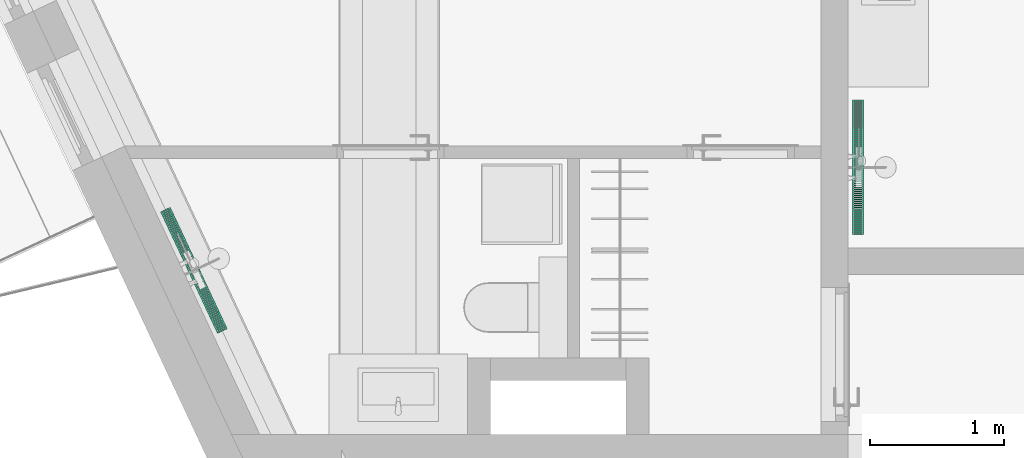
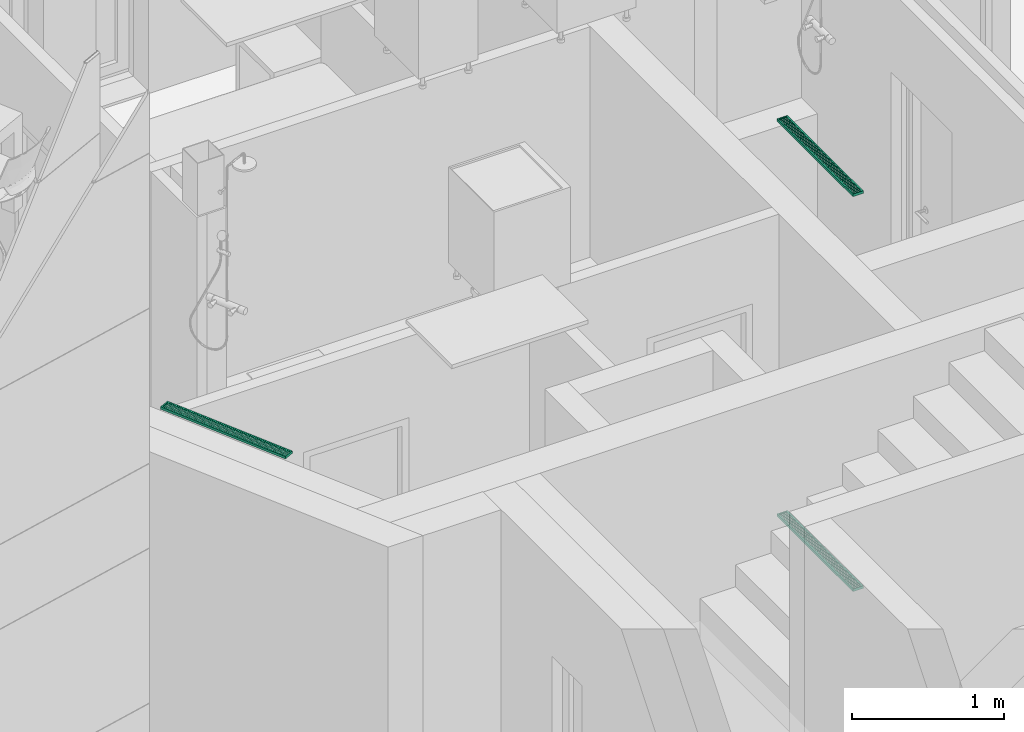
# One storey, part 50 of 125: 3 flow terminals.
"""IFC2X3 building model written with IfcOpenShell, lengths in millimetres."""

from ifc_helpers import new_model, entity, si_unit, converted_unit, direction, frame, origin, place, context, subcontext, project, spatial, faceted_brep, source, transform, mapped, material, type_object, type_shapes, element, save


model = new_model("IFC2X3")

# Units and contexts
model_context = context("Model", 3, precision=0.01, world=origin(), true_north=direction((6.123233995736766e-17, 1.0)))
plan_context = context("Plan", 3, precision=0.01, world=origin(), true_north=direction((6.123233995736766e-17, 1.0)))
body_context = subcontext(model_context, "Body", "Model", "MODEL_VIEW")
ifc_project = project(units=[si_unit("LENGTHUNIT", "METRE", prefix="MILLI"), converted_unit("PLANEANGLEUNIT", "DEGREE", entity("IfcPlaneAngleMeasure", 0.017453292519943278), si_unit("PLANEANGLEUNIT", "RADIAN"), dimensions=[0, 0, 0, 0, 0, 0, 0]), si_unit("AREAUNIT", "SQUARE_METRE")], contexts=[model_context, plan_context])

# Site, building, storey, space
site_placement = place(None, origin())
site = spatial("IfcSite", under=ifc_project, at=site_placement, Name="Default", CompositionType="ELEMENT")
building_placement = place(site_placement, origin())
building = spatial("IfcBuilding", under=site, at=building_placement, CompositionType="ELEMENT")
storey_placement = place(building_placement, frame((0.0, 0.0, 3125.0)))
storey = spatial("IfcBuildingStorey", under=building, at=storey_placement, Name="2K", CompositionType="ELEMENT", Elevation=3125.0)
space_1_placement = place(storey_placement, origin())
space_1 = spatial("IfcSpace", under=storey, at=space_1_placement, Name="2-2.4", CompositionType="ELEMENT", InteriorOrExteriorSpace="INTERNAL")

# Flow terminals
ifc_material = material(Name="<Unnamed>")
distribution_element_type = type_object("IfcDistributionElementType", Name="HR_Plumbing-fixtures_Drain_Channel_Generic_v1:Default", material=ifc_material)
shared_shape = source(origin(), body_context, "Body", "Brep", [
    faceted_brep([(500.0, 80.0, 0.0), (-500.0, 80.0, 0.0), (-500.0, 0.0, 0.0), (500.0, 0.0, 0.0), (20.0, 70.0, 0.0), (25.0, 70.0, 0.0), (25.0, 10.0, 0.0), (20.0, 10.0, 0.0), (35.0, 70.0, 0.0), (40.0, 70.0, 0.0), (40.0, 10.0, 0.0), (35.0, 10.0, 0.0), (50.0, 70.0, 0.0), (55.0, 70.0, 0.0), (55.0, 10.0, 0.0), (50.0, 10.0, 0.0), (65.0, 70.0, 0.0), (70.0, 70.0, 0.0), (70.0, 10.0, 0.0), (65.0, 10.0, 0.0), (80.0, 70.0, 0.0), (85.0, 70.0, 0.0), (85.0, 10.0, 0.0), (80.0, 10.0, 0.0), (95.0, 70.0, 0.0), (100.0, 70.0, 0.0), (100.0, 10.0, 0.0), (95.0, 10.0, 0.0), (110.0, 70.0, 0.0), (115.0, 70.0, 0.0), (115.0, 10.0, 0.0), (110.0, 10.0, 0.0), (125.0, 70.0, 0.0), (130.0, 70.0, 0.0), (130.0, 10.0, 0.0), (125.0, 10.0, 0.0), (140.0, 70.0, 0.0), (145.0, 70.0, 0.0), (145.0, 10.0, 0.0), (140.0, 10.0, 0.0), (155.0, 70.0, 0.0), (160.0, 70.0, 0.0), (160.0, 10.0, 0.0), (155.0, 10.0, 0.0), (170.0, 70.0, 0.0), (175.0, 70.0, 0.0), (175.0, 10.0, 0.0), (170.0, 10.0, 0.0), (185.0, 70.0, 0.0), (190.0, 70.0, 0.0), (190.0, 10.0, 0.0), (185.0, 10.0, 0.0), (200.0, 70.0, 0.0), (205.0, 70.0, 0.0), (205.0, 10.0, 0.0), (200.0, 10.0, 0.0), (215.0, 70.0, 0.0), (220.0, 70.0, 0.0), (220.0, 10.0, 0.0), (215.0, 10.0, 0.0), (230.0, 70.0, 0.0), (235.0, 70.0, 0.0), (235.0, 10.0, 0.0), (230.0, 10.0, 0.0), (245.0, 70.0, 0.0), (250.0, 70.0, 0.0), (250.0, 10.0, 0.0), (245.0, 10.0, 0.0), (260.0, 70.0, 0.0), (265.0, 70.0, 0.0), (265.0, 10.0, 0.0), (260.0, 10.0, 0.0), (275.0, 70.0, 0.0), (280.0, 70.0, 0.0), (280.0, 10.0, 0.0), (275.0, 10.0, 0.0), (290.0, 70.0, 0.0), (295.0, 70.0, 0.0), (295.0, 10.0, 0.0), (290.0, 10.0, 0.0), (305.0, 70.0, 0.0), (310.0, 70.0, 0.0), (310.0, 10.0, 0.0), (305.0, 10.0, 0.0), (320.0, 70.0, 0.0), (325.0, 70.0, 0.0), (325.0, 10.0, 0.0), (320.0, 10.0, 0.0), (335.0, 70.0, 0.0), (340.0, 70.0, 0.0), (340.0, 10.0, 0.0), (335.0, 10.0, 0.0), (350.0, 70.0, 0.0), (355.0, 70.0, 0.0), (355.0, 10.0, 0.0), (350.0, 10.0, 0.0), (365.0, 70.0, 0.0), (370.0, 70.0, 0.0), (370.0, 10.0, 0.0), (365.0, 10.0, 0.0), (380.0, 70.0, 0.0), (385.0, 70.0, 0.0), (385.0, 10.0, 0.0), (380.0, 10.0, 0.0), (-25.0, 70.0, 0.0), (-20.0, 70.0, 0.0), (-20.0, 10.0, 0.0), (-25.0, 10.0, 0.0), (-40.0, 70.0, 0.0), (-35.0, 70.0, 0.0), (-35.0, 10.0, 0.0), (-40.0, 10.0, 0.0), (-55.0, 70.0, 0.0), (-50.0, 70.0, 0.0), (-50.0, 10.0, 0.0), (-55.0, 10.0, 0.0), (-70.0, 70.0, 0.0), (-65.0, 70.0, 0.0), (-65.0, 10.0, 0.0), (-70.0, 10.0, 0.0), (-85.0, 70.0, 0.0), (-80.0, 70.0, 0.0), (-80.0, 10.0, 0.0), (-85.0, 10.0, 0.0), (-100.0, 70.0, 0.0), (-95.0, 70.0, 0.0), (-95.0, 10.0, 0.0), (-100.0, 10.0, 0.0), (-115.0, 70.0, 0.0), (-110.0, 70.0, 0.0), (-110.0, 10.0, 0.0), (-115.0, 10.0, 0.0), (-130.0, 70.0, 0.0), (-125.0, 70.0, 0.0), (-125.0, 10.0, 0.0), (-130.0, 10.0, 0.0), (-145.0, 70.0, 0.0), (-140.0, 70.0, 0.0), (-140.0, 10.0, 0.0), (-145.0, 10.0, 0.0), (-160.0, 70.0, 0.0), (-155.0, 70.0, 0.0), (-155.0, 10.0, 0.0), (-160.0, 10.0, 0.0), (-175.0, 70.0, 0.0), (-170.0, 70.0, 0.0), (-170.0, 10.0, 0.0), (-175.0, 10.0, 0.0), (-190.0, 70.0, 0.0), (-185.0, 70.0, 0.0), (-185.0, 10.0, 0.0), (-190.0, 10.0, 0.0), (-205.0, 70.0, 0.0), (-200.0, 70.0, 0.0), (-200.0, 10.0, 0.0), (-205.0, 10.0, 0.0), (-220.0, 70.0, 0.0), (-215.0, 70.0, 0.0), (-215.0, 10.0, 0.0), (-220.0, 10.0, 0.0), (-235.0, 70.0, 0.0), (-230.0, 70.0, 0.0), (-230.0, 10.0, 0.0), (-235.0, 10.0, 0.0), (-250.0, 70.0, 0.0), (-245.0, 70.0, 0.0), (-245.0, 10.0, 0.0), (-250.0, 10.0, 0.0), (-265.0, 70.0, 0.0), (-260.0, 70.0, 0.0), (-260.0, 10.0, 0.0), (-265.0, 10.0, 0.0), (-280.0, 70.0, 0.0), (-275.0, 70.0, 0.0), (-275.0, 10.0, 0.0), (-280.0, 10.0, 0.0), (-295.0, 70.0, 0.0), (-290.0, 70.0, 0.0), (-290.0, 10.0, 0.0), (-295.0, 10.0, 0.0), (-310.0, 70.0, 0.0), (-305.0, 70.0, 0.0), (-305.0, 10.0, 0.0), (-310.0, 10.0, 0.0), (-325.0, 70.0, 0.0), (-320.0, 70.0, 0.0), (-320.0, 10.0, 0.0), (-325.0, 10.0, 0.0), (-340.0, 70.0, 0.0), (-335.0, 70.0, 0.0), (-335.0, 10.0, 0.0), (-340.0, 10.0, 0.0), (-355.0, 70.0, 0.0), (-350.0, 70.0, 0.0), (-350.0, 10.0, 0.0), (-355.0, 10.0, 0.0), (-370.0, 70.0, 0.0), (-365.0, 70.0, 0.0), (-365.0, 10.0, 0.0), (-370.0, 10.0, 0.0), (-385.0, 70.0, 0.0), (-380.0, 70.0, 0.0), (-380.0, 10.0, 0.0), (-385.0, 10.0, 0.0), (395.0, 70.0, 0.0), (400.0, 70.0, 0.0), (400.0, 10.0, 0.0), (395.0, 10.0, 0.0), (410.0, 70.0, 0.0), (415.0, 70.0, 0.0), (415.0, 10.0, 0.0), (410.0, 10.0, 0.0), (425.0, 70.0, 0.0), (430.0, 70.0, 0.0), (430.0, 10.0, 0.0), (425.0, 10.0, 0.0), (440.0, 70.0, 0.0), (445.0, 70.0, 0.0), (445.0, 10.0, 0.0), (440.0, 10.0, 0.0), (455.0, 70.0, 0.0), (460.0, 70.0, 0.0), (460.0, 10.0, 0.0), (455.0, 10.0, 0.0), (470.0, 70.0, 0.0), (475.0, 70.0, 0.0), (475.0, 10.0, 0.0), (470.0, 10.0, 0.0), (485.0, 70.0, 0.0), (490.0, 70.0, 0.0), (490.0, 10.0, 0.0), (485.0, 10.0, 0.0), (-400.0, 70.0, 0.0), (-395.0, 70.0, 0.0), (-395.0, 10.0, 0.0), (-400.0, 10.0, 0.0), (-415.0, 70.0, 0.0), (-410.0, 70.0, 0.0), (-410.0, 10.0, 0.0), (-415.0, 10.0, 0.0), (-430.0, 70.0, 0.0), (-425.0, 70.0, 0.0), (-425.0, 10.0, 0.0), (-430.0, 10.0, 0.0), (-445.0, 70.0, 0.0), (-440.0, 70.0, 0.0), (-440.0, 10.0, 0.0), (-445.0, 10.0, 0.0), (-460.0, 70.0, 0.0), (-455.0, 70.0, 0.0), (-455.0, 10.0, 0.0), (-460.0, 10.0, 0.0), (-475.0, 70.0, 0.0), (-470.0, 70.0, 0.0), (-470.0, 10.0, 0.0), (-475.0, 10.0, 0.0), (-490.0, 70.0, 0.0), (-485.0, 70.0, 0.0), (-485.0, 10.0, 0.0), (-490.0, 10.0, 0.0), (-10.0, 70.0, 0.0), (-5.0, 70.0, 0.0), (-5.0, 10.0, 0.0), (-10.0, 10.0, 0.0), (5.0, 70.0, 0.0), (10.0, 70.0, 0.0), (10.0, 10.0, 0.0), (5.0, 10.0, 0.0), (-500.0, 80.0, -20.0), (500.0, 80.0, -20.0), (500.0, 0.0, -20.0), (-500.0, 0.0, -20.0), (498.5000000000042, 78.500000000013, -20.0), (-498.49999999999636, 78.500000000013, -20.0), (-498.49999999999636, 1.5000000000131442, -20.0), (498.5000000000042, 1.5000000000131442, -20.0), (498.5000000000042, 78.500000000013, -1.5000000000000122), (498.5000000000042, 1.5000000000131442, -1.5000000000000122), (-498.49999999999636, 1.5000000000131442, -1.5000000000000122), (-498.49999999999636, 78.500000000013, -1.5000000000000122), (25.0, 70.0, -1.5000000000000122), (20.0, 70.0, -1.5000000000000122), (20.0, 10.0, -1.5000000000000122), (25.0, 10.0, -1.5000000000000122), (40.0, 70.0, -1.5000000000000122), (35.0, 70.0, -1.5000000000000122), (35.0, 10.0, -1.5000000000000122), (40.0, 10.0, -1.5000000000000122), (55.0, 70.0, -1.5000000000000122), (50.0, 70.0, -1.5000000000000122), (50.0, 10.0, -1.5000000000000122), (55.0, 10.0, -1.5000000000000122), (70.0, 70.0, -1.5000000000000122), (65.0, 70.0, -1.5000000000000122), (65.0, 10.0, -1.5000000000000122), (70.0, 10.0, -1.5000000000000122), (85.0, 70.0, -1.5000000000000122), (80.0, 70.0, -1.5000000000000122), (80.0, 10.0, -1.5000000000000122), (85.0, 10.0, -1.5000000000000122), (100.0, 70.0, -1.5000000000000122), (95.0, 70.0, -1.5000000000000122), (95.0, 10.0, -1.5000000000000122), (100.0, 10.0, -1.5000000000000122), (115.0, 70.0, -1.5000000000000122), (110.0, 70.0, -1.5000000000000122), (110.0, 10.0, -1.5000000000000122), (115.0, 10.0, -1.5000000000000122), (130.0, 70.0, -1.5000000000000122), (125.0, 70.0, -1.5000000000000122), (125.0, 10.0, -1.5000000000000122), (130.0, 10.0, -1.5000000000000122), (145.0, 70.0, -1.5000000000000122), (140.0, 70.0, -1.5000000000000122), (140.0, 10.0, -1.5000000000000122), (145.0, 10.0, -1.5000000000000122), (160.0, 70.0, -1.5000000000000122), (155.0, 70.0, -1.5000000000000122), (155.0, 10.0, -1.5000000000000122), (160.0, 10.0, -1.5000000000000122), (175.0, 70.0, -1.5000000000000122), (170.0, 70.0, -1.5000000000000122), (170.0, 10.0, -1.5000000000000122), (175.0, 10.0, -1.5000000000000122), (190.0, 70.0, -1.5000000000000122), (185.0, 70.0, -1.5000000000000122), (185.0, 10.0, -1.5000000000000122), (190.0, 10.0, -1.5000000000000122), (205.0, 70.0, -1.5000000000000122), (200.0, 70.0, -1.5000000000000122), (200.0, 10.0, -1.5000000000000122), (205.0, 10.0, -1.5000000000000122), (220.0, 70.0, -1.5000000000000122), (215.0, 70.0, -1.5000000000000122), (215.0, 10.0, -1.5000000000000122), (220.0, 10.0, -1.5000000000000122), (235.0, 70.0, -1.5000000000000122), (230.0, 70.0, -1.5000000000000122), (230.0, 10.0, -1.5000000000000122), (235.0, 10.0, -1.5000000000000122), (250.0, 70.0, -1.5000000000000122), (245.0, 70.0, -1.5000000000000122), (245.0, 10.0, -1.5000000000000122), (250.0, 10.0, -1.5000000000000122), (265.0, 70.0, -1.5000000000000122), (260.0, 70.0, -1.5000000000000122), (260.0, 10.0, -1.5000000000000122), (265.0, 10.0, -1.5000000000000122), (280.0, 70.0, -1.5000000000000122), (275.0, 70.0, -1.5000000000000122), (275.0, 10.0, -1.5000000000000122), (280.0, 10.0, -1.5000000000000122), (295.0, 70.0, -1.5000000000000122), (290.0, 70.0, -1.5000000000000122), (290.0, 10.0, -1.5000000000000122), (295.0, 10.0, -1.5000000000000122), (310.0, 70.0, -1.5000000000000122), (305.0, 70.0, -1.5000000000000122), (305.0, 10.0, -1.5000000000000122), (310.0, 10.0, -1.5000000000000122), (325.0, 70.0, -1.5000000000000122), (320.0, 70.0, -1.5000000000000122), (320.0, 10.0, -1.5000000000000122), (325.0, 10.0, -1.5000000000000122), (340.0, 70.0, -1.5000000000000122), (335.0, 70.0, -1.5000000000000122), (335.0, 10.0, -1.5000000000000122), (340.0, 10.0, -1.5000000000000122), (355.0, 70.0, -1.5000000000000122), (350.0, 70.0, -1.5000000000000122), (350.0, 10.0, -1.5000000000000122), (355.0, 10.0, -1.5000000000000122), (370.0, 70.0, -1.5000000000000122), (365.0, 70.0, -1.5000000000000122), (365.0, 10.0, -1.5000000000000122), (370.0, 10.0, -1.5000000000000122), (385.0, 70.0, -1.5000000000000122), (380.0, 70.0, -1.5000000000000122), (380.0, 10.0, -1.5000000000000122), (385.0, 10.0, -1.5000000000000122), (-20.0, 70.0, -1.5000000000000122), (-25.0, 70.0, -1.5000000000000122), (-25.0, 10.0, -1.5000000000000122), (-20.0, 10.0, -1.5000000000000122), (-35.0, 70.0, -1.5000000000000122), (-40.0, 70.0, -1.5000000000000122), (-40.0, 10.0, -1.5000000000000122), (-35.0, 10.0, -1.5000000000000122), (-50.0, 70.0, -1.5000000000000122), (-55.0, 70.0, -1.5000000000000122), (-55.0, 10.0, -1.5000000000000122), (-50.0, 10.0, -1.5000000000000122), (-65.0, 70.0, -1.5000000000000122), (-70.0, 70.0, -1.5000000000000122), (-70.0, 10.0, -1.5000000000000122), (-65.0, 10.0, -1.5000000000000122), (-80.0, 70.0, -1.5000000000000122), (-85.0, 70.0, -1.5000000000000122), (-85.0, 10.0, -1.5000000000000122), (-80.0, 10.0, -1.5000000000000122), (-95.0, 70.0, -1.5000000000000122), (-100.0, 70.0, -1.5000000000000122), (-100.0, 10.0, -1.5000000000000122), (-95.0, 10.0, -1.5000000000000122), (-110.0, 70.0, -1.5000000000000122), (-115.0, 70.0, -1.5000000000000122), (-115.0, 10.0, -1.5000000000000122), (-110.0, 10.0, -1.5000000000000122), (-125.0, 70.0, -1.5000000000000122), (-130.0, 70.0, -1.5000000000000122), (-130.0, 10.0, -1.5000000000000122), (-125.0, 10.0, -1.5000000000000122), (-140.0, 70.0, -1.5000000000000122), (-145.0, 70.0, -1.5000000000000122), (-145.0, 10.0, -1.5000000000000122), (-140.0, 10.0, -1.5000000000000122), (-155.0, 70.0, -1.5000000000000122), (-160.0, 70.0, -1.5000000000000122), (-160.0, 10.0, -1.5000000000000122), (-155.0, 10.0, -1.5000000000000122), (-170.0, 70.0, -1.5000000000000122), (-175.0, 70.0, -1.5000000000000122), (-175.0, 10.0, -1.5000000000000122), (-170.0, 10.0, -1.5000000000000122), (-185.0, 70.0, -1.5000000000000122), (-190.0, 70.0, -1.5000000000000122), (-190.0, 10.0, -1.5000000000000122), (-185.0, 10.0, -1.5000000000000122), (-200.0, 70.0, -1.5000000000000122), (-205.0, 70.0, -1.5000000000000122), (-205.0, 10.0, -1.5000000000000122), (-200.0, 10.0, -1.5000000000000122), (-215.0, 70.0, -1.5000000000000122), (-220.0, 70.0, -1.5000000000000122), (-220.0, 10.0, -1.5000000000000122), (-215.0, 10.0, -1.5000000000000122), (-230.0, 70.0, -1.5000000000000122), (-235.0, 70.0, -1.5000000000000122), (-235.0, 10.0, -1.5000000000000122), (-230.0, 10.0, -1.5000000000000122), (-245.0, 70.0, -1.5000000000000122), (-250.0, 70.0, -1.5000000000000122), (-250.0, 10.0, -1.5000000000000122), (-245.0, 10.0, -1.5000000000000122), (-260.0, 70.0, -1.5000000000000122), (-265.0, 70.0, -1.5000000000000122), (-265.0, 10.0, -1.5000000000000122), (-260.0, 10.0, -1.5000000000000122), (-275.0, 70.0, -1.5000000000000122), (-280.0, 70.0, -1.5000000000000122), (-280.0, 10.0, -1.5000000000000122), (-275.0, 10.0, -1.5000000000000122), (-290.0, 70.0, -1.5000000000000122), (-295.0, 70.0, -1.5000000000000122), (-295.0, 10.0, -1.5000000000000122), (-290.0, 10.0, -1.5000000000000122), (-305.0, 70.0, -1.5000000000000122), (-310.0, 70.0, -1.5000000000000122), (-310.0, 10.0, -1.5000000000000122), (-305.0, 10.0, -1.5000000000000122), (-320.0, 70.0, -1.5000000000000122), (-325.0, 70.0, -1.5000000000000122), (-325.0, 10.0, -1.5000000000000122), (-320.0, 10.0, -1.5000000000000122), (-335.0, 70.0, -1.5000000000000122), (-340.0, 70.0, -1.5000000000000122), (-340.0, 10.0, -1.5000000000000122), (-335.0, 10.0, -1.5000000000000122), (-350.0, 70.0, -1.5000000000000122), (-355.0, 70.0, -1.5000000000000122), (-355.0, 10.0, -1.5000000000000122), (-350.0, 10.0, -1.5000000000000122), (-365.0, 70.0, -1.5000000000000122), (-370.0, 70.0, -1.5000000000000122), (-370.0, 10.0, -1.5000000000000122), (-365.0, 10.0, -1.5000000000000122), (-380.0, 70.0, -1.5000000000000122), (-385.0, 70.0, -1.5000000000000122), (-385.0, 10.0, -1.5000000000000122), (-380.0, 10.0, -1.5000000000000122), (400.0, 70.0, -1.5000000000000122), (395.0, 70.0, -1.5000000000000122), (395.0, 10.0, -1.5000000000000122), (400.0, 10.0, -1.5000000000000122), (415.0, 70.0, -1.5000000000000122), (410.0, 70.0, -1.5000000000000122), (410.0, 10.0, -1.5000000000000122), (415.0, 10.0, -1.5000000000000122), (430.0, 70.0, -1.5000000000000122), (425.0, 70.0, -1.5000000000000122), (425.0, 10.0, -1.5000000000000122), (430.0, 10.0, -1.5000000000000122), (445.0, 70.0, -1.5000000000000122), (440.0, 70.0, -1.5000000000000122), (440.0, 10.0, -1.5000000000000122), (445.0, 10.0, -1.5000000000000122), (460.0, 70.0, -1.5000000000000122), (455.0, 70.0, -1.5000000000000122), (455.0, 10.0, -1.5000000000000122), (460.0, 10.0, -1.5000000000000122), (475.0, 70.0, -1.5000000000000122), (470.0, 70.0, -1.5000000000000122), (470.0, 10.0, -1.5000000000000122), (475.0, 10.0, -1.5000000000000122), (490.0, 70.0, -1.5000000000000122), (485.0, 70.0, -1.5000000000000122), (485.0, 10.0, -1.5000000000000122), (490.0, 10.0, -1.5000000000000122), (-395.0, 70.0, -1.5000000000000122), (-400.0, 70.0, -1.5000000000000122), (-400.0, 10.0, -1.5000000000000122), (-395.0, 10.0, -1.5000000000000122), (-410.0, 70.0, -1.5000000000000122), (-415.0, 70.0, -1.5000000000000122), (-415.0, 10.0, -1.5000000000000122), (-410.0, 10.0, -1.5000000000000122), (-425.0, 70.0, -1.5000000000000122), (-430.0, 70.0, -1.5000000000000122), (-430.0, 10.0, -1.5000000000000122), (-425.0, 10.0, -1.5000000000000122), (-440.0, 70.0, -1.5000000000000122), (-445.0, 70.0, -1.5000000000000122), (-445.0, 10.0, -1.5000000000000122), (-440.0, 10.0, -1.5000000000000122), (-455.0, 70.0, -1.5000000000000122), (-460.0, 70.0, -1.5000000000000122), (-460.0, 10.0, -1.5000000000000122), (-455.0, 10.0, -1.5000000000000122), (-470.0, 70.0, -1.5000000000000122), (-475.0, 70.0, -1.5000000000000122), (-475.0, 10.0, -1.5000000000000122), (-470.0, 10.0, -1.5000000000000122), (-485.0, 70.0, -1.5000000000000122), (-490.0, 70.0, -1.5000000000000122), (-490.0, 10.0, -1.5000000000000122), (-485.0, 10.0, -1.5000000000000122), (-5.0, 70.0, -1.5000000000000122), (-10.0, 70.0, -1.5000000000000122), (-10.0, 10.0, -1.5000000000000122), (-5.0, 10.0, -1.5000000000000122), (10.0, 70.0, -1.5000000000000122), (5.0, 70.0, -1.5000000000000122), (5.0, 10.0, -1.5000000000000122), (10.0, 10.0, -1.5000000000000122)], [[[0, 1, 2, 3], [4, 5, 6, 7], [8, 9, 10, 11], [12, 13, 14, 15], [16, 17, 18, 19], [20, 21, 22, 23], [24, 25, 26, 27], [28, 29, 30, 31], [32, 33, 34, 35], [36, 37, 38, 39], [40, 41, 42, 43], [44, 45, 46, 47], [48, 49, 50, 51], [52, 53, 54, 55], [56, 57, 58, 59], [60, 61, 62, 63], [64, 65, 66, 67], [68, 69, 70, 71], [72, 73, 74, 75], [76, 77, 78, 79], [80, 81, 82, 83], [84, 85, 86, 87], [88, 89, 90, 91], [92, 93, 94, 95], [96, 97, 98, 99], [100, 101, 102, 103], [104, 105, 106, 107], [108, 109, 110, 111], [112, 113, 114, 115], [116, 117, 118, 119], [120, 121, 122, 123], [124, 125, 126, 127], [128, 129, 130, 131], [132, 133, 134, 135], [136, 137, 138, 139], [140, 141, 142, 143], [144, 145, 146, 147], [148, 149, 150, 151], [152, 153, 154, 155], [156, 157, 158, 159], [160, 161, 162, 163], [164, 165, 166, 167], [168, 169, 170, 171], [172, 173, 174, 175], [176, 177, 178, 179], [180, 181, 182, 183], [184, 185, 186, 187], [188, 189, 190, 191], [192, 193, 194, 195], [196, 197, 198, 199], [200, 201, 202, 203], [204, 205, 206, 207], [208, 209, 210, 211], [212, 213, 214, 215], [216, 217, 218, 219], [220, 221, 222, 223], [224, 225, 226, 227], [228, 229, 230, 231], [232, 233, 234, 235], [236, 237, 238, 239], [240, 241, 242, 243], [244, 245, 246, 247], [248, 249, 250, 251], [252, 253, 254, 255], [256, 257, 258, 259], [260, 261, 262, 263], [264, 265, 266, 267]], [[268, 269, 270, 271], [272, 273, 274, 275]], [[1, 0, 269, 268]], [[2, 1, 268, 271]], [[3, 2, 271, 270]], [[0, 3, 270, 269]], [[276, 277, 278, 279], [280, 281, 282, 283], [284, 285, 286, 287], [288, 289, 290, 291], [292, 293, 294, 295], [296, 297, 298, 299], [300, 301, 302, 303], [304, 305, 306, 307], [308, 309, 310, 311], [312, 313, 314, 315], [316, 317, 318, 319], [320, 321, 322, 323], [324, 325, 326, 327], [328, 329, 330, 331], [332, 333, 334, 335], [336, 337, 338, 339], [340, 341, 342, 343], [344, 345, 346, 347], [348, 349, 350, 351], [352, 353, 354, 355], [356, 357, 358, 359], [360, 361, 362, 363], [364, 365, 366, 367], [368, 369, 370, 371], [372, 373, 374, 375], [376, 377, 378, 379], [380, 381, 382, 383], [384, 385, 386, 387], [388, 389, 390, 391], [392, 393, 394, 395], [396, 397, 398, 399], [400, 401, 402, 403], [404, 405, 406, 407], [408, 409, 410, 411], [412, 413, 414, 415], [416, 417, 418, 419], [420, 421, 422, 423], [424, 425, 426, 427], [428, 429, 430, 431], [432, 433, 434, 435], [436, 437, 438, 439], [440, 441, 442, 443], [444, 445, 446, 447], [448, 449, 450, 451], [452, 453, 454, 455], [456, 457, 458, 459], [460, 461, 462, 463], [464, 465, 466, 467], [468, 469, 470, 471], [472, 473, 474, 475], [476, 477, 478, 479], [480, 481, 482, 483], [484, 485, 486, 487], [488, 489, 490, 491], [492, 493, 494, 495], [496, 497, 498, 499], [500, 501, 502, 503], [504, 505, 506, 507], [508, 509, 510, 511], [512, 513, 514, 515], [516, 517, 518, 519], [520, 521, 522, 523], [524, 525, 526, 527], [528, 529, 530, 531], [532, 533, 534, 535], [536, 537, 538, 539], [540, 541, 542, 543]], [[276, 279, 273, 272]], [[279, 278, 274, 273]], [[278, 277, 275, 274]], [[277, 276, 272, 275]], [[5, 4, 281, 280]], [[4, 7, 282, 281]], [[7, 6, 283, 282]], [[6, 5, 280, 283]], [[9, 8, 285, 284]], [[8, 11, 286, 285]], [[11, 10, 287, 286]], [[10, 9, 284, 287]], [[13, 12, 289, 288]], [[12, 15, 290, 289]], [[15, 14, 291, 290]], [[14, 13, 288, 291]], [[17, 16, 293, 292]], [[16, 19, 294, 293]], [[19, 18, 295, 294]], [[18, 17, 292, 295]], [[21, 20, 297, 296]], [[20, 23, 298, 297]], [[23, 22, 299, 298]], [[22, 21, 296, 299]], [[25, 24, 301, 300]], [[24, 27, 302, 301]], [[27, 26, 303, 302]], [[26, 25, 300, 303]], [[29, 28, 305, 304]], [[28, 31, 306, 305]], [[31, 30, 307, 306]], [[30, 29, 304, 307]], [[33, 32, 309, 308]], [[32, 35, 310, 309]], [[35, 34, 311, 310]], [[34, 33, 308, 311]], [[37, 36, 313, 312]], [[36, 39, 314, 313]], [[39, 38, 315, 314]], [[38, 37, 312, 315]], [[41, 40, 317, 316]], [[40, 43, 318, 317]], [[43, 42, 319, 318]], [[42, 41, 316, 319]], [[45, 44, 321, 320]], [[44, 47, 322, 321]], [[47, 46, 323, 322]], [[46, 45, 320, 323]], [[49, 48, 325, 324]], [[48, 51, 326, 325]], [[51, 50, 327, 326]], [[50, 49, 324, 327]], [[53, 52, 329, 328]], [[52, 55, 330, 329]], [[55, 54, 331, 330]], [[54, 53, 328, 331]], [[57, 56, 333, 332]], [[56, 59, 334, 333]], [[59, 58, 335, 334]], [[58, 57, 332, 335]], [[61, 60, 337, 336]], [[60, 63, 338, 337]], [[63, 62, 339, 338]], [[62, 61, 336, 339]], [[65, 64, 341, 340]], [[64, 67, 342, 341]], [[67, 66, 343, 342]], [[66, 65, 340, 343]], [[69, 68, 345, 344]], [[68, 71, 346, 345]], [[71, 70, 347, 346]], [[70, 69, 344, 347]], [[73, 72, 349, 348]], [[72, 75, 350, 349]], [[75, 74, 351, 350]], [[74, 73, 348, 351]], [[77, 76, 353, 352]], [[76, 79, 354, 353]], [[79, 78, 355, 354]], [[78, 77, 352, 355]], [[81, 80, 357, 356]], [[80, 83, 358, 357]], [[83, 82, 359, 358]], [[82, 81, 356, 359]], [[85, 84, 361, 360]], [[84, 87, 362, 361]], [[87, 86, 363, 362]], [[86, 85, 360, 363]], [[89, 88, 365, 364]], [[88, 91, 366, 365]], [[91, 90, 367, 366]], [[90, 89, 364, 367]], [[93, 92, 369, 368]], [[92, 95, 370, 369]], [[95, 94, 371, 370]], [[94, 93, 368, 371]], [[97, 96, 373, 372]], [[96, 99, 374, 373]], [[99, 98, 375, 374]], [[98, 97, 372, 375]], [[101, 100, 377, 376]], [[100, 103, 378, 377]], [[103, 102, 379, 378]], [[102, 101, 376, 379]], [[105, 104, 381, 380]], [[104, 107, 382, 381]], [[107, 106, 383, 382]], [[106, 105, 380, 383]], [[109, 108, 385, 384]], [[108, 111, 386, 385]], [[111, 110, 387, 386]], [[110, 109, 384, 387]], [[113, 112, 389, 388]], [[112, 115, 390, 389]], [[115, 114, 391, 390]], [[114, 113, 388, 391]], [[117, 116, 393, 392]], [[116, 119, 394, 393]], [[119, 118, 395, 394]], [[118, 117, 392, 395]], [[121, 120, 397, 396]], [[120, 123, 398, 397]], [[123, 122, 399, 398]], [[122, 121, 396, 399]], [[125, 124, 401, 400]], [[124, 127, 402, 401]], [[127, 126, 403, 402]], [[126, 125, 400, 403]], [[129, 128, 405, 404]], [[128, 131, 406, 405]], [[131, 130, 407, 406]], [[130, 129, 404, 407]], [[133, 132, 409, 408]], [[132, 135, 410, 409]], [[135, 134, 411, 410]], [[134, 133, 408, 411]], [[137, 136, 413, 412]], [[136, 139, 414, 413]], [[139, 138, 415, 414]], [[138, 137, 412, 415]], [[141, 140, 417, 416]], [[140, 143, 418, 417]], [[143, 142, 419, 418]], [[142, 141, 416, 419]], [[145, 144, 421, 420]], [[144, 147, 422, 421]], [[147, 146, 423, 422]], [[146, 145, 420, 423]], [[149, 148, 425, 424]], [[148, 151, 426, 425]], [[151, 150, 427, 426]], [[150, 149, 424, 427]], [[153, 152, 429, 428]], [[152, 155, 430, 429]], [[155, 154, 431, 430]], [[154, 153, 428, 431]], [[157, 156, 433, 432]], [[156, 159, 434, 433]], [[159, 158, 435, 434]], [[158, 157, 432, 435]], [[161, 160, 437, 436]], [[160, 163, 438, 437]], [[163, 162, 439, 438]], [[162, 161, 436, 439]], [[165, 164, 441, 440]], [[164, 167, 442, 441]], [[167, 166, 443, 442]], [[166, 165, 440, 443]], [[169, 168, 445, 444]], [[168, 171, 446, 445]], [[171, 170, 447, 446]], [[170, 169, 444, 447]], [[173, 172, 449, 448]], [[172, 175, 450, 449]], [[175, 174, 451, 450]], [[174, 173, 448, 451]], [[177, 176, 453, 452]], [[176, 179, 454, 453]], [[179, 178, 455, 454]], [[178, 177, 452, 455]], [[181, 180, 457, 456]], [[180, 183, 458, 457]], [[183, 182, 459, 458]], [[182, 181, 456, 459]], [[185, 184, 461, 460]], [[184, 187, 462, 461]], [[187, 186, 463, 462]], [[186, 185, 460, 463]], [[189, 188, 465, 464]], [[188, 191, 466, 465]], [[191, 190, 467, 466]], [[190, 189, 464, 467]], [[193, 192, 469, 468]], [[192, 195, 470, 469]], [[195, 194, 471, 470]], [[194, 193, 468, 471]], [[197, 196, 473, 472]], [[196, 199, 474, 473]], [[199, 198, 475, 474]], [[198, 197, 472, 475]], [[201, 200, 477, 476]], [[200, 203, 478, 477]], [[203, 202, 479, 478]], [[202, 201, 476, 479]], [[205, 204, 481, 480]], [[204, 207, 482, 481]], [[207, 206, 483, 482]], [[206, 205, 480, 483]], [[209, 208, 485, 484]], [[208, 211, 486, 485]], [[211, 210, 487, 486]], [[210, 209, 484, 487]], [[213, 212, 489, 488]], [[212, 215, 490, 489]], [[215, 214, 491, 490]], [[214, 213, 488, 491]], [[217, 216, 493, 492]], [[216, 219, 494, 493]], [[219, 218, 495, 494]], [[218, 217, 492, 495]], [[221, 220, 497, 496]], [[220, 223, 498, 497]], [[223, 222, 499, 498]], [[222, 221, 496, 499]], [[225, 224, 501, 500]], [[224, 227, 502, 501]], [[227, 226, 503, 502]], [[226, 225, 500, 503]], [[229, 228, 505, 504]], [[228, 231, 506, 505]], [[231, 230, 507, 506]], [[230, 229, 504, 507]], [[233, 232, 509, 508]], [[232, 235, 510, 509]], [[235, 234, 511, 510]], [[234, 233, 508, 511]], [[237, 236, 513, 512]], [[236, 239, 514, 513]], [[239, 238, 515, 514]], [[238, 237, 512, 515]], [[241, 240, 517, 516]], [[240, 243, 518, 517]], [[243, 242, 519, 518]], [[242, 241, 516, 519]], [[245, 244, 521, 520]], [[244, 247, 522, 521]], [[247, 246, 523, 522]], [[246, 245, 520, 523]], [[249, 248, 525, 524]], [[248, 251, 526, 525]], [[251, 250, 527, 526]], [[250, 249, 524, 527]], [[253, 252, 529, 528]], [[252, 255, 530, 529]], [[255, 254, 531, 530]], [[254, 253, 528, 531]], [[257, 256, 533, 532]], [[256, 259, 534, 533]], [[259, 258, 535, 534]], [[258, 257, 532, 535]], [[261, 260, 537, 536]], [[260, 263, 538, 537]], [[263, 262, 539, 538]], [[262, 261, 536, 539]], [[265, 264, 541, 540]], [[264, 267, 542, 541]], [[267, 266, 543, 542]], [[266, 265, 540, 543]]]),
])
type_shapes(distribution_element_type, [shared_shape])
for number, where, z_axis, x_axis, name in (
    (1, (3379.993534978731, 8640.0, 0.0), (0.0, 0.0, 1.0), (0.0, -1.0, 0.0), "HR_Plumbing-fixtures_Drain_Channel_Generic_v1:Default"),
    (2, (3379.993534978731, 8640.0, 3170.0), (0.0, 0.0, 1.0), (0.0, -1.0, 0.0), "HR_Plumbing-fixtures_Drain_Channel_Generic_v1:Default"),
):
    element("IfcFlowTerminal", number, at=place(space_1_placement, frame(where, z_axis=z_axis, x_axis=x_axis)), inside=space_1, type_object=distribution_element_type, material=ifc_material, Name=name, ObjectType="HR_Plumbing-fixtures_Drain_Channel_Generic_v1:Default", context=body_context, shape_type="MappedRepresentation", body=[
        mapped(shared_shape, transform((0.0, 0.0, 0.0), scale=1.0)),
    ])

# Space
space_2_placement = place(storey_placement, origin())
space_2 = spatial("IfcSpace", under=storey, at=space_2_placement, Name="2-1.4", CompositionType="ELEMENT", InteriorOrExteriorSpace="INTERNAL")

# Flow terminal
flow_terminal_placement = place(space_2_placement, frame((-1566.7872087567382, 7855.192837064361, 3170.0), z_axis=(0.0, 0.0, 1.0), x_axis=(0.4244360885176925, -0.9054578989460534, 0.0)))
element("IfcFlowTerminal", 3, at=flow_terminal_placement, inside=space_2, type_object=distribution_element_type, material=ifc_material, Name="HR_Plumbing-fixtures_Drain_Channel_Generic_v1:Default", ObjectType="HR_Plumbing-fixtures_Drain_Channel_Generic_v1:Default", context=body_context, shape_type="MappedRepresentation", body=[
    mapped(shared_shape, transform((0.0, 0.0, 0.0), scale=1.0)),
])

save(model, "model.ifc")
